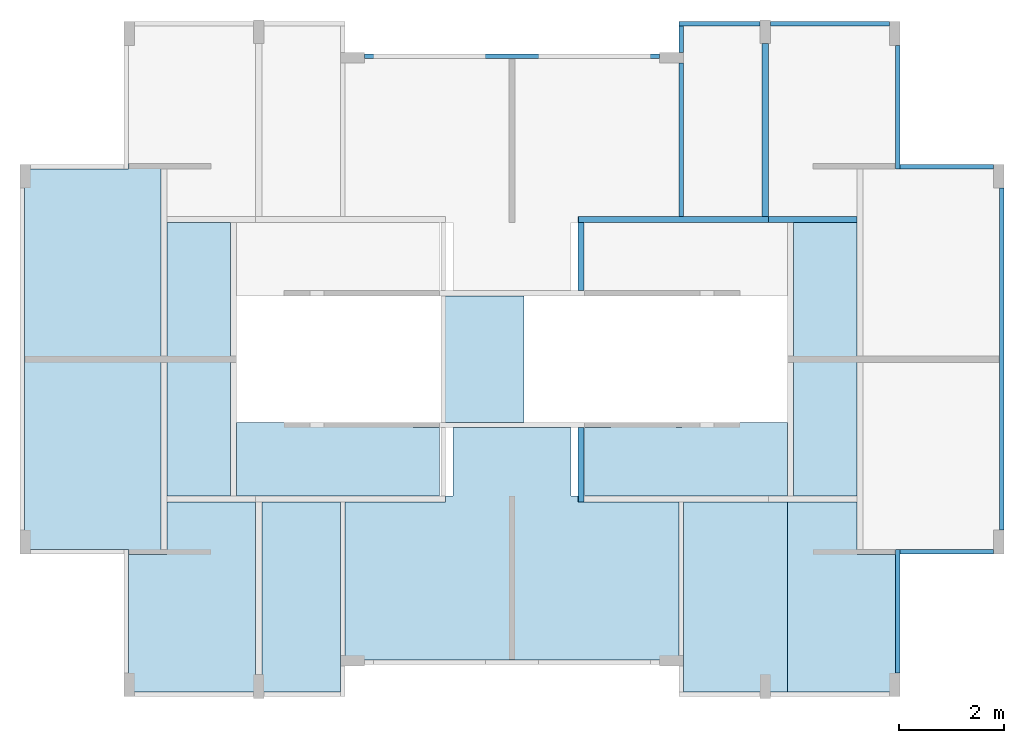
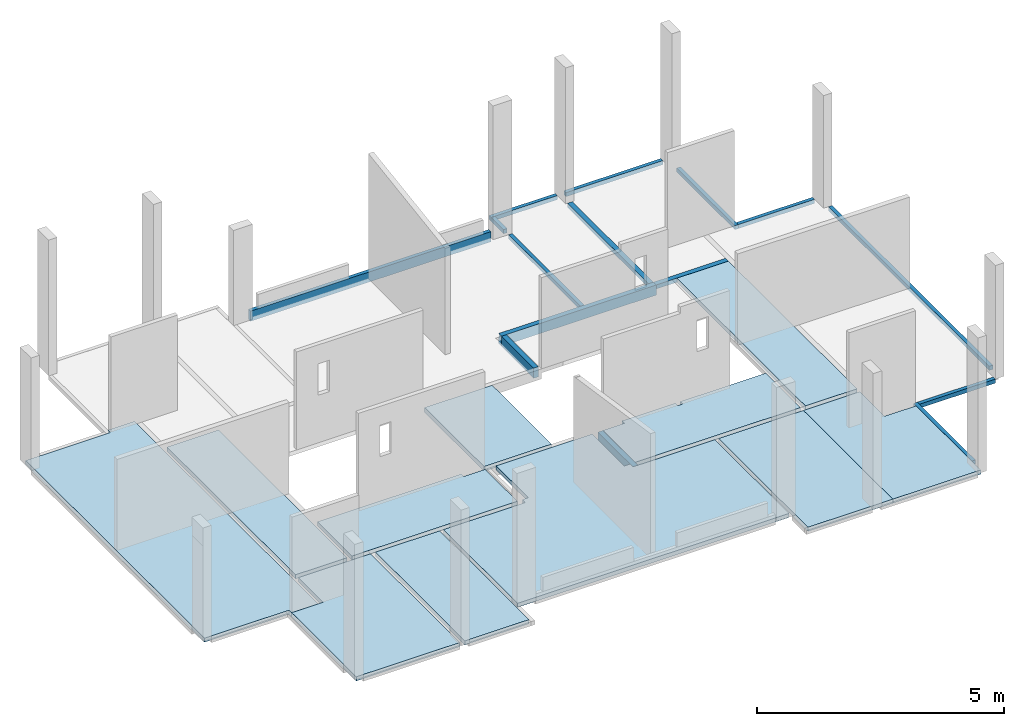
# One storey, part 3 of 5: 13 beams, 11 slabs.
"""IFC4 building model written with IfcOpenShell, lengths in metres."""

from ifc_helpers import new_model, entity, si_unit, converted_unit, derived_unit, direction, frame, frame_2d, origin, place, context, subcontext, project, spatial, polyline, indexed_curve, rectangle, outline, extrude, polygons, source, transform, mapped, material, type_object, type_shapes, element, save


model = new_model("IFC4")

# Units and contexts
model_context = context("Model", 3, precision=1e-05, world=origin(), true_north=direction((6.123031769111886e-17, 1.0)))
body_context = subcontext(model_context, "Body", "Model", "MODEL_VIEW")
ifc_project = project(units=[si_unit("LENGTHUNIT", "METRE"), si_unit("AREAUNIT", "SQUARE_METRE"), si_unit("VOLUMEUNIT", "CUBIC_METRE"), converted_unit("PLANEANGLEUNIT", "DEGREE", entity("IfcRatioMeasure", 0.017453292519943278), si_unit("PLANEANGLEUNIT", "RADIAN"), dimensions=[0, 0, 0, 0, 0, 0, 0]), si_unit("MASSUNIT", "GRAM", prefix="KILO"), derived_unit("MASSDENSITYUNIT", [(si_unit("MASSUNIT", "GRAM", prefix="KILO"), 1), (si_unit("LENGTHUNIT", "METRE"), -3)]), derived_unit("IONCONCENTRATIONUNIT", [(si_unit("MASSUNIT", "GRAM", prefix="KILO"), 1), (si_unit("LENGTHUNIT", "METRE"), -3)]), derived_unit("MOMENTOFINERTIAUNIT", [(si_unit("LENGTHUNIT", "METRE"), 4)]), si_unit("TIMEUNIT", "SECOND"), si_unit("FREQUENCYUNIT", "HERTZ"), si_unit("THERMODYNAMICTEMPERATUREUNIT", "DEGREE_CELSIUS"), derived_unit("THERMALTRANSMITTANCEUNIT", [(si_unit("MASSUNIT", "GRAM", prefix="KILO"), 1), (si_unit("THERMODYNAMICTEMPERATUREUNIT", "KELVIN"), -1), (si_unit("TIMEUNIT", "SECOND"), -3)]), derived_unit("THERMALCONDUCTANCEUNIT", [(si_unit("MASSUNIT", "GRAM", prefix="KILO"), 1), (si_unit("THERMODYNAMICTEMPERATUREUNIT", "KELVIN"), -1), (si_unit("TIMEUNIT", "SECOND"), -3), (si_unit("LENGTHUNIT", "METRE"), 1)]), derived_unit("VOLUMETRICFLOWRATEUNIT", [(si_unit("LENGTHUNIT", "METRE"), 3), (si_unit("TIMEUNIT", "SECOND"), -1)]), derived_unit("MASSFLOWRATEUNIT", [(si_unit("MASSUNIT", "GRAM", prefix="KILO"), 1), (si_unit("TIMEUNIT", "SECOND"), -1)]), derived_unit("ROTATIONALFREQUENCYUNIT", [(si_unit("TIMEUNIT", "SECOND"), -1)]), si_unit("ELECTRICCURRENTUNIT", "AMPERE"), si_unit("ELECTRICVOLTAGEUNIT", "VOLT"), si_unit("POWERUNIT", "WATT"), si_unit("FORCEUNIT", "NEWTON", prefix="KILO"), si_unit("ILLUMINANCEUNIT", "LUX"), si_unit("LUMINOUSFLUXUNIT", "LUMEN"), si_unit("LUMINOUSINTENSITYUNIT", "CANDELA"), derived_unit("USERDEFINED", [(si_unit("MASSUNIT", "GRAM", prefix="KILO"), -1), (si_unit("LENGTHUNIT", "METRE"), -2), (si_unit("TIMEUNIT", "SECOND"), 3), (si_unit("LUMINOUSFLUXUNIT", "LUMEN"), 1)]), derived_unit("USERDEFINED", [(si_unit("MASSUNIT", "GRAM", prefix="KILO"), 1), (si_unit("TIMEUNIT", "SECOND"), -3), (si_unit("LENGTHUNIT", "METRE"), 3), (si_unit("ELECTRICCURRENTUNIT", "AMPERE"), -2)]), derived_unit("SOUNDPOWERUNIT", [(si_unit("MASSUNIT", "GRAM", prefix="KILO"), 1), (si_unit("TIMEUNIT", "SECOND"), -3), (si_unit("LENGTHUNIT", "METRE"), 2)]), derived_unit("SOUNDPRESSUREUNIT", [(si_unit("MASSUNIT", "GRAM", prefix="KILO"), 1), (si_unit("LENGTHUNIT", "METRE"), -1), (si_unit("TIMEUNIT", "SECOND"), -2)]), derived_unit("LINEARVELOCITYUNIT", [(si_unit("LENGTHUNIT", "METRE"), 1), (si_unit("TIMEUNIT", "SECOND"), -1)]), si_unit("PRESSUREUNIT", "PASCAL"), derived_unit("USERDEFINED", [(si_unit("MASSUNIT", "GRAM", prefix="KILO"), 1), (si_unit("LENGTHUNIT", "METRE"), -2), (si_unit("TIMEUNIT", "SECOND"), -2)]), derived_unit("LINEARFORCEUNIT", [(si_unit("MASSUNIT", "GRAM", prefix="KILO"), 1), (si_unit("TIMEUNIT", "SECOND"), -2)]), derived_unit("PLANARFORCEUNIT", [(si_unit("MASSUNIT", "GRAM", prefix="KILO"), 1), (si_unit("LENGTHUNIT", "METRE"), -1), (si_unit("TIMEUNIT", "SECOND"), -2)]), derived_unit("SPECIFICHEATCAPACITYUNIT", [(si_unit("THERMODYNAMICTEMPERATUREUNIT", "KELVIN"), -1), (si_unit("LENGTHUNIT", "METRE"), 2), (si_unit("TIMEUNIT", "SECOND"), -2)]), derived_unit("HEATINGVALUEUNIT", [(si_unit("LENGTHUNIT", "METRE"), 2), (si_unit("TIMEUNIT", "SECOND"), -2)]), derived_unit("VAPORPERMEABILITYUNIT", [(si_unit("LENGTHUNIT", "METRE"), -1), (si_unit("TIMEUNIT", "SECOND"), 1)]), derived_unit("DYNAMICVISCOSITYUNIT", [(si_unit("MASSUNIT", "GRAM", prefix="KILO"), 1), (si_unit("TIMEUNIT", "SECOND"), -1), (si_unit("LENGTHUNIT", "METRE"), -1)]), derived_unit("THERMALEXPANSIONCOEFFICIENTUNIT", [(si_unit("THERMODYNAMICTEMPERATUREUNIT", "KELVIN"), -1)]), derived_unit("MODULUSOFELASTICITYUNIT", [(si_unit("MASSUNIT", "GRAM", prefix="KILO"), 1), (si_unit("LENGTHUNIT", "METRE"), -1), (si_unit("TIMEUNIT", "SECOND"), -2)]), derived_unit("ISOTHERMALMOISTURECAPACITYUNIT", [(si_unit("LENGTHUNIT", "METRE"), 3), (si_unit("MASSUNIT", "GRAM", prefix="KILO"), -1)]), derived_unit("MOISTUREDIFFUSIVITYUNIT", [(si_unit("TIMEUNIT", "SECOND"), -1), (si_unit("LENGTHUNIT", "METRE"), 2)])], contexts=[model_context])

# Site, building, storey
site_placement = place(None, origin())
site = spatial("IfcSite", under=ifc_project, at=site_placement, Name="Default", CompositionType="ELEMENT")
building_placement = place(site_placement, origin())
building = spatial("IfcBuilding", under=site, at=building_placement, Name="Las nubes", CompositionType="ELEMENT")
storey_placement = place(building_placement, frame((0.0, 0.0, 11.750000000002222)))
storey = spatial("IfcBuildingStorey", under=building, at=storey_placement, Name="PISO 6", CompositionType="ELEMENT", Elevation=11.750000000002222)

# Beams
ifc_material_1 = material(Name="Concrete - Cast-in-Place Concrete - 35 MPa", Category="Materials")
beam_type_1 = type_object("IfcBeamType", Name="M_Concrete-Rectangular Beam:(0.085x0.10)", PredefinedType="BEAM", material=ifc_material_1)
shared_shape_1 = source(origin(), body_context, "Body", "SweptSolid", [
    extrude(outline(indexed_curve([(-0.042500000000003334, -0.050000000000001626), (0.042499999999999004, -0.050000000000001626), (0.042499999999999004, 0.04999999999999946), (-0.042500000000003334, 0.04999999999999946), (-0.042500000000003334, -0.050000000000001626)], self_intersect=False)), frame((16.655000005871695, -12.390000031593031, 11.700000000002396), z_axis=(0.0, 1.0, 0.0), x_axis=(-1.0, 0.0, 0.0)), (0.0, 0.0, 1.0), 2.3500028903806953),
])
type_shapes(beam_type_1, [shared_shape_1])
beam_1_placement = place(storey_placement, frame((0.0, 0.0, -11.750000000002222)))
element("IfcBeam", 1, at=beam_1_placement, inside=storey, type_object=beam_type_1, material=ifc_material_1, Name="M_Concrete-Rectangular Beam:(0.085x0.10)", ObjectType="M_Concrete-Rectangular Beam:(0.085x0.10)", PredefinedType="BEAM", context=body_context, shape_type="MappedRepresentation", body=[
    mapped(shared_shape_1, transform((0.0, 0.0, 0.0), scale=1.0)),
])
ifc_material_2 = material(Name="Concrete, Cast In Situ", Category="Materials")
beam_type_2 = type_object("IfcBeamType", Name="M_Concrete-Rectangular Beam:(0.085x0.10)", PredefinedType="BEAM", material=ifc_material_2)
shared_shape_2 = source(origin(), body_context, "Body", "SweptSolid", [
    extrude(outline(indexed_curve([(-0.05000000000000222, -0.04249999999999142), (0.04999999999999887, -0.042500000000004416), (0.05000000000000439, 0.04249999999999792), (-0.04999999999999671, 0.042500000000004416), (-0.05000000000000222, -0.04249999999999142)], self_intersect=False)), frame((16.697500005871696, -10.082497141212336, 11.700000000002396), z_axis=(1.0, 0.0, 0.0), x_axis=(0.0, 0.0, -1.0)), (0.0, 0.0, 1.0), 1.7749999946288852),
])
type_shapes(beam_type_2, [shared_shape_2])
beam_2_placement = place(storey_placement, frame((0.0, 0.0, -11.750000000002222)))
element("IfcBeam", 2, at=beam_2_placement, inside=storey, type_object=beam_type_2, material=ifc_material_2, Name="M_Concrete-Rectangular Beam:(0.085x0.10)", ObjectType="M_Concrete-Rectangular Beam:(0.085x0.10)", PredefinedType="BEAM", context=body_context, shape_type="MappedRepresentation", body=[
    mapped(shared_shape_2, transform((0.0, 0.0, 0.0), scale=1.0)),
])
beam_type_3 = type_object("IfcBeamType", Name="M_Concrete-Rectangular Beam:(0.085x0.10)", PredefinedType="BEAM", material=ifc_material_1)
shared_shape_3 = source(origin(), body_context, "Body", "SweptSolid", [
    extrude(outline(indexed_curve([(-0.042499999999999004, -0.050000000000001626), (0.042500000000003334, -0.050000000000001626), (0.042500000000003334, 0.04999999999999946), (-0.042499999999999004, 0.04999999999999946), (-0.042499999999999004, -0.050000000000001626)], self_intersect=False)), frame((18.630000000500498, -9.675000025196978, 11.700000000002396), z_axis=(0.0, 1.0, 0.0), x_axis=(-1.0, 0.0, 0.0)), (0.0, 0.0, 1.0), 6.499999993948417),
])
type_shapes(beam_type_3, [shared_shape_3])
beam_3_placement = place(storey_placement, frame((0.0, 0.0, -11.750000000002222)))
element("IfcBeam", 3, at=beam_3_placement, inside=storey, type_object=beam_type_3, material=ifc_material_1, Name="M_Concrete-Rectangular Beam:(0.085x0.10)", ObjectType="M_Concrete-Rectangular Beam:(0.085x0.10)", PredefinedType="BEAM", context=body_context, shape_type="MappedRepresentation", body=[
    mapped(shared_shape_3, transform((0.0, 0.0, 0.0), scale=1.0)),
])
beam_type_4 = type_object("IfcBeamType", Name="M_Concrete-Rectangular Beam:(0.085x0.10)", PredefinedType="BEAM", material=ifc_material_2)
shared_shape_4 = source(origin(), body_context, "Body", "SweptSolid", [
    extrude(outline(indexed_curve([(-0.042500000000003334, -0.050000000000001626), (0.042499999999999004, -0.050000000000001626), (0.042499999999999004, 0.04999999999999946), (-0.042500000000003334, 0.04999999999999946), (-0.042500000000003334, -0.050000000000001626)], self_intersect=False)), frame((16.65500000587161, -2.8099983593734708, 11.700000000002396), z_axis=(0.0, 1.0, 0.0), x_axis=(-1.0, 0.0, 0.0)), (0.0, 0.0, 1.0), 2.34999833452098),
])
type_shapes(beam_type_4, [shared_shape_4])
beam_4_placement = place(storey_placement, frame((0.0, 0.0, -11.750000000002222)))
element("IfcBeam", 4, at=beam_4_placement, inside=storey, type_object=beam_type_4, material=ifc_material_2, Name="M_Concrete-Rectangular Beam:(0.085x0.10)", ObjectType="M_Concrete-Rectangular Beam:(0.085x0.10)", PredefinedType="BEAM", context=body_context, shape_type="MappedRepresentation", body=[
    mapped(shared_shape_4, transform((0.0, 0.0, 0.0), scale=1.0)),
])
beam_type_5 = type_object("IfcBeamType", Name="M_Concrete-Rectangular Beam:(0.115x0.25)", PredefinedType="BEAM", material=ifc_material_2)
shared_shape_5 = source(origin(), body_context, "Body", "Tessellation", [
    polygons([(0.11500000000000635, 1.4150000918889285, 0.25000000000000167), (2.1657342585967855e-15, 1.4150000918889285, 0.25000000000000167), (4.331468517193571e-15, 0.11500012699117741, 0.25000000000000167), (0.005000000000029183, 0.11500012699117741, 0.24999999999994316), (0.005000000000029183, 0.0, 0.25000000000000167), (0.11500000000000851, 0.0, 0.25000000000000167), (0.11500000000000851, 0.1150000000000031, 0.25000000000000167), (2.1657342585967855e-15, 1.4150000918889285, 0.0), (4.331468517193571e-15, 0.0, 0.0), (4.331468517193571e-15, 0.0, 0.1499999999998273), (4.331468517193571e-15, 0.11500012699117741, 0.1499999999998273), (0.11500000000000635, 1.4150000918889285, 0.0), (0.11500000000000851, 0.11500000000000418, 0.0), (0.11500000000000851, 0.0, 0.0), (0.11500000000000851, 0.0, 0.1499999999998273), (0.005000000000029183, 0.0, 0.1499999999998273), (0.005000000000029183, 0.11500012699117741, 0.1499999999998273)], [[[1, 2, 3, 4, 5, 6, 7]], [[2, 8, 9, 10, 11, 3]], [[8, 12, 13, 14, 9]], [[12, 1, 7, 6, 15, 14, 13]], [[8, 2, 1, 12]], [[16, 17, 11, 10]], [[17, 16, 5, 4]], [[17, 4, 3, 11]], [[9, 14, 15, 6, 5, 16, 10]]], closed=True),
])
type_shapes(beam_type_5, [shared_shape_5])
beam_5_placement = place(storey_placement, frame((10.577499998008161, -9.140000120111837, -0.2499999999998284)))
element("IfcBeam", 5, at=beam_5_placement, inside=storey, type_object=beam_type_5, material=ifc_material_2, Name="M_Concrete-Rectangular Beam:(0.115x0.25)", ObjectType="M_Concrete-Rectangular Beam:(0.115x0.25)", PredefinedType="BEAM", context=body_context, shape_type="MappedRepresentation", body=[
    mapped(shared_shape_5, transform((0.0, 0.0, 0.0), scale=1.0)),
])
beam_type_6 = type_object("IfcBeamType", Name="M_Concrete-Rectangular Beam:(0.115x0.25)", PredefinedType="BEAM", material=ifc_material_2)
shared_shape_6 = source(origin(), body_context, "Body", "SweptSolid", [
    extrude(outline(indexed_curve([(-0.14499999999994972, -1.120500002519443), (0.004999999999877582, -1.120500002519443), (0.004999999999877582, -1.1155000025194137), (0.10500000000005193, -1.1155000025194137), (0.10500000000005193, -1.0055000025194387), (0.10500000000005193, -1.0005000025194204), (0.10500000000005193, 2.4945000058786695), (0.004999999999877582, 2.4945000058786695), (-0.14499999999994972, 2.4945000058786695), (-0.14499999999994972, -1.0055000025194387), (-0.14499999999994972, -1.120500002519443)], self_intersect=False)), frame((11.698000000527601, -3.824999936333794, 11.645000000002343), z_axis=(0.0, 1.0, 0.0), x_axis=(0.0, 0.0, 1.0)), (0.0, 0.0, 1.0), 0.1150000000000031),
])
type_shapes(beam_type_6, [shared_shape_6])
beam_6_placement = place(storey_placement, frame((0.0, 0.0, -11.750000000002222)))
element("IfcBeam", 6, at=beam_6_placement, inside=storey, type_object=beam_type_6, material=ifc_material_2, Name="M_Concrete-Rectangular Beam:(0.115x0.25)", ObjectType="M_Concrete-Rectangular Beam:(0.115x0.25)", PredefinedType="BEAM", context=body_context, shape_type="MappedRepresentation", body=[
    mapped(shared_shape_6, transform((0.0, 0.0, 0.0), scale=1.0)),
])
beam_type_7 = type_object("IfcBeamType", Name="M_Concrete-Rectangular Beam:(0.115x0.25)", PredefinedType="BEAM", material=ifc_material_2)
shared_shape_7 = source(origin(), body_context, "Body", "SweptSolid", [
    extrude(outline(indexed_curve([(-0.05750000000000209, -0.12500000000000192), (0.05750000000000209, -0.12500000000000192), (0.05750000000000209, 0.12499999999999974), (-0.05750000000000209, 0.12499999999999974), (-0.05750000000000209, -0.12500000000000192)], self_intersect=False)), frame((10.634999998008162, -5.125000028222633, 11.625000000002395), z_axis=(0.0, 1.0, 0.0), x_axis=(-1.0, 0.0, 0.0)), (0.0, 0.0, 1.0), 1.3000000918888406),
])
type_shapes(beam_type_7, [shared_shape_7])
beam_7_placement = place(storey_placement, frame((0.0, 0.0, -11.750000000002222)))
element("IfcBeam", 7, at=beam_7_placement, inside=storey, type_object=beam_type_7, material=ifc_material_2, Name="M_Concrete-Rectangular Beam:(0.115x0.25)", ObjectType="M_Concrete-Rectangular Beam:(0.115x0.25)", PredefinedType="BEAM", context=body_context, shape_type="MappedRepresentation", body=[
    mapped(shared_shape_7, transform((0.0, 0.0, 0.0), scale=1.0)),
])
beam_type_8 = type_object("IfcBeamType", Name="M_Concrete-Rectangular Beam:(0.085x0.25)", PredefinedType="BEAM", material=ifc_material_2)
shared_shape_8 = source(origin(), body_context, "Body", "SweptSolid", [
    extrude(outline(indexed_curve([(-0.12500000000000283, -0.042499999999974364), (0.12499999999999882, -0.04250000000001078), (0.125000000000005, 0.04249999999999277), (-0.12499999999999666, 0.04250000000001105), (-0.12500000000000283, -0.042499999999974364)], self_intersect=False)), frame((6.517499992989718, -0.6675000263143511, 11.775000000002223), z_axis=(1.0, 0.0, 0.0), x_axis=(0.0, 0.0, -1.0)), (0.0, 0.0, 1.0), 5.610000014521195),
])
type_shapes(beam_type_8, [shared_shape_8])
beam_8_placement = place(storey_placement, frame((0.0, 0.0, -11.750000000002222)))
element("IfcBeam", 8, at=beam_8_placement, inside=storey, type_object=beam_type_8, material=ifc_material_2, Name="M_Concrete-Rectangular Beam:(0.085x0.25)", ObjectType="M_Concrete-Rectangular Beam:(0.085x0.25)", PredefinedType="BEAM", context=body_context, shape_type="MappedRepresentation", body=[
    mapped(shared_shape_8, transform((0.0, 0.0, 0.0), scale=1.0)),
])
beam_type_9 = type_object("IfcBeamType", Name="M_Concrete-Rectangular Beam:(0.115x0.10)", PredefinedType="BEAM", material=ifc_material_2)
shared_shape_9 = source(origin(), body_context, "Body", "SweptSolid", [
    extrude(outline(indexed_curve([(-0.05000000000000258, -0.057499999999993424), (0.04999999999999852, -0.057500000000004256), (0.05000000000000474, 0.057499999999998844), (-0.049999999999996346, 0.057500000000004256), (-0.05000000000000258, -0.057499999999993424)], self_intersect=False)), frame((14.192500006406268, -3.7675000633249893, 11.700000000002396), z_axis=(1.0, 0.0, 0.0), x_axis=(0.0, 0.0, -1.0)), (0.0, 0.0, 1.0), 1.6849989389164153),
])
type_shapes(beam_type_9, [shared_shape_9])
beam_9_placement = place(storey_placement, frame((0.0, 0.0, -11.750000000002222)))
element("IfcBeam", 9, at=beam_9_placement, inside=storey, type_object=beam_type_9, material=ifc_material_2, Name="M_Concrete-Rectangular Beam:(0.115x0.10)", ObjectType="M_Concrete-Rectangular Beam:(0.115x0.10)", PredefinedType="BEAM", context=body_context, shape_type="MappedRepresentation", body=[
    mapped(shared_shape_9, transform((0.0, 0.0, 0.0), scale=1.0)),
])
beam_type_10 = type_object("IfcBeamType", Name="M_Concrete-Rectangular Beam:(0.115x0.10)", PredefinedType="BEAM", material=ifc_material_2)
shared_shape_10 = source(origin(), body_context, "Body", "SweptSolid", [
    extrude(outline(indexed_curve([(-0.057499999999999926, -0.04999999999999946), (0.05750000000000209, -0.04999999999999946), (0.057500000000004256, 0.050000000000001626), (-0.05750000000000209, 0.050000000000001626), (-0.057499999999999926, -0.04999999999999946)], self_intersect=False)), frame((14.135000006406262, -0.4300000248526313, 11.700000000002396), z_axis=(0.0, -1.0, 0.0), x_axis=(-1.0, 0.0, 0.0)), (0.0, 0.0, 1.0), 3.2799999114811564),
])
type_shapes(beam_type_10, [shared_shape_10])
beam_10_placement = place(storey_placement, frame((0.0, 0.0, -11.750000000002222)))
element("IfcBeam", 10, at=beam_10_placement, inside=storey, type_object=beam_type_10, material=ifc_material_2, Name="M_Concrete-Rectangular Beam:(0.115x0.10)", ObjectType="M_Concrete-Rectangular Beam:(0.115x0.10)", PredefinedType="BEAM", context=body_context, shape_type="MappedRepresentation", body=[
    mapped(shared_shape_10, transform((0.0, 0.0, 0.0), scale=1.0)),
])
beam_type_11 = type_object("IfcBeamType", Name="M_Concrete-Rectangular Beam:(0.085x0.10)", PredefinedType="BEAM", material=ifc_material_2)
shared_shape_11 = source(origin(), body_context, "Body", "SweptSolid", [
    extrude(outline(indexed_curve([(-0.050000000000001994, -0.04249999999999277), (0.0499999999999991, -0.04250000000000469), (0.05000000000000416, 0.04249999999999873), (-0.049999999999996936, 0.04250000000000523), (-0.050000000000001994, -0.04249999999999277)], self_intersect=False)), frame((18.472500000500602, -2.7674983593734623, 11.700000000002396), z_axis=(-1.0, 0.0, 0.0), x_axis=(0.0, 0.0, -1.0)), (0.0, 0.0, 1.0), 1.7749999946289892),
])
type_shapes(beam_type_11, [shared_shape_11])
beam_11_placement = place(storey_placement, frame((0.0, 0.0, -11.750000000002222)))
element("IfcBeam", 11, at=beam_11_placement, inside=storey, type_object=beam_type_11, material=ifc_material_2, Name="M_Concrete-Rectangular Beam:(0.085x0.10)", ObjectType="M_Concrete-Rectangular Beam:(0.085x0.10)", PredefinedType="BEAM", context=body_context, shape_type="MappedRepresentation", body=[
    mapped(shared_shape_11, transform((0.0, 0.0, 0.0), scale=1.0)),
])
beam_type_12 = type_object("IfcBeamType", Name="M_Concrete-Rectangular Beam:(0.085x0.10)", PredefinedType="BEAM", material=ifc_material_2)
shared_shape_12 = source(origin(), body_context, "Body", "SweptSolid", [
    extrude(outline(indexed_curve([(-0.05000000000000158, -0.0424999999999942), (0.04999999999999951, -0.04250000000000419), (0.05000000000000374, 0.0424999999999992), (-0.049999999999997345, 0.04250000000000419), (-0.05000000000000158, -0.0424999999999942)], self_intersect=False)), frame((14.035000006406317, -0.05250003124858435, 11.700000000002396), z_axis=(-1.0, 0.0, 0.0), x_axis=(0.0, 0.0, -1.0)), (0.0, 0.0, 1.0), 1.5424999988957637),
    extrude(outline(indexed_curve([(-0.05000000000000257, -0.042499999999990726), (0.049999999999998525, -0.042500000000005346), (0.050000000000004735, 0.04249999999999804), (-0.04999999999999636, 0.042500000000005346), (-0.05000000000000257, -0.042499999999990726)], self_intersect=False)), frame((16.497500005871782, -0.05250003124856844, 11.700000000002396), z_axis=(-1.0, 0.0, 0.0), x_axis=(0.0, 0.0, -1.0)), (0.0, 0.0, 1.0), 2.2624999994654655),
])
type_shapes(beam_type_12, [shared_shape_12])
beam_12_placement = place(storey_placement, frame((0.0, 0.0, -11.750000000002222)))
element("IfcBeam", 12, at=beam_12_placement, inside=storey, type_object=beam_type_12, material=ifc_material_2, Name="M_Concrete-Rectangular Beam:(0.085x0.10)", ObjectType="M_Concrete-Rectangular Beam:(0.085x0.10)", PredefinedType="BEAM", context=body_context, shape_type="MappedRepresentation", body=[
    mapped(shared_shape_12, transform((0.0, 0.0, 0.0), scale=1.0)),
])
beam_type_13 = type_object("IfcBeamType", Name="M_Concrete-Rectangular Beam:(0.085x0.10)", PredefinedType="BEAM", material=ifc_material_2)
shared_shape_13 = source(origin(), body_context, "Body", "SweptSolid", [
    extrude(outline(indexed_curve([(-0.04250000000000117, -0.04999999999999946), (0.04250000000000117, -0.04999999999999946), (0.04250000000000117, 0.050000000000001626), (-0.04250000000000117, 0.050000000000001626), (-0.04250000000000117, -0.04999999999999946)], self_intersect=False)), frame((12.535000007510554, -0.7950000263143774, 11.700000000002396), z_axis=(0.0, -1.0, 0.0), x_axis=(-1.0, 0.0, 0.0)), (0.0, 0.0, 1.0), 2.914999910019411),
    extrude(outline(indexed_curve([(-0.04250000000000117, -0.04999999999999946), (0.04250000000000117, -0.04999999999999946), (0.04250000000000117, 0.050000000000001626), (-0.04250000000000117, 0.050000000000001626), (-0.04250000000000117, -0.04999999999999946)], self_intersect=False)), frame((12.535000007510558, -0.09500002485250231, 11.700000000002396), z_axis=(0.0, -1.0, 0.0), x_axis=(-1.0, 0.0, 0.0)), (0.0, 0.0, 1.0), 0.5000000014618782),
])
type_shapes(beam_type_13, [shared_shape_13])
beam_13_placement = place(storey_placement, frame((0.0, 0.0, -11.750000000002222)))
element("IfcBeam", 13, at=beam_13_placement, inside=storey, type_object=beam_type_13, material=ifc_material_2, Name="M_Concrete-Rectangular Beam:(0.085x0.10)", ObjectType="M_Concrete-Rectangular Beam:(0.085x0.10)", PredefinedType="BEAM", context=body_context, shape_type="MappedRepresentation", body=[
    mapped(shared_shape_13, transform((0.0, 0.0, 0.0), scale=1.0)),
])

# Slabs
ifc_material_3 = material(Name="Concrete - Cast-in-Place Concrete - 28 MPa SLAB", Category="Materials")
slab_type_1 = type_object("IfcSlabType", Name="Floor:PLACA ESTRUCTURAL 0.10", PredefinedType="FLOOR", material=ifc_material_3)
slab_1_placement = place(storey_placement, origin())
element("IfcSlab", 14, at=slab_1_placement, inside=storey, type_object=slab_type_1, material=ifc_material_3, Name="Floor:PLACA ESTRUCTURAL 0.10", ObjectType="Floor:PLACA ESTRUCTURAL 0.10", PredefinedType="FLOOR", context=body_context, shape_type="SweptSolid", body=[
    extrude(outline(indexed_curve([(-3.6149999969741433, -1.636250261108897), (3.614999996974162, -1.636250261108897), (3.614999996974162, 0.33874973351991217), (3.7150000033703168, 0.3387497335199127), (3.7150000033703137, 0.9587507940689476), (-3.7150000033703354, 0.9587507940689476), (-3.715000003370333, 0.33874973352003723), (-3.6149999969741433, 0.3387497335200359), (-3.6149999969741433, -1.636250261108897)], self_intersect=False)), frame((1.693750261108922, -6.425000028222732, 0.0), z_axis=(0.0, 0.0, -1.0), x_axis=(0.0, 1.0, 0.0)), (0.0, 0.0, 1.0), 0.10000000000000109),
])
slab_2_placement = place(storey_placement, origin())
element("IfcSlab", 15, at=slab_2_placement, inside=storey, type_object=slab_type_1, material=ifc_material_3, Name="Floor:PLACA ESTRUCTURAL 0.10", ObjectType="Floor:PLACA ESTRUCTURAL 0.10", PredefinedType="FLOOR", context=body_context, shape_type="SweptSolid", body=[
    extrude(outline(indexed_curve([(-2.0766666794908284, -1.0516670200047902), (0.5383333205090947, -1.0516670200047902), (0.5383333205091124, -0.3166659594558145), (1.5383333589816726, -0.3166659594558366), (1.5383333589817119, 1.368332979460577), (-2.0766666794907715, 1.3683329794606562), (-2.0766666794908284, -1.0516670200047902)], self_intersect=False)), frame((3.0841670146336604, -10.67833335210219, 0.0), z_axis=(0.0, 0.0, -1.0), x_axis=(0.0, 1.0, 0.0)), (0.0, 0.0, 1.0), 0.10000000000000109),
])
slab_3_placement = place(storey_placement, frame((2.767501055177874, -12.755000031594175, -0.10000000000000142)))
element("IfcSlab", 16, at=slab_3_placement, inside=storey, type_object=slab_type_1, material=ifc_material_3, Name="Floor:PLACA ESTRUCTURAL 0.10", ObjectType="Floor:PLACA ESTRUCTURAL 0.10", PredefinedType="FLOOR", context=body_context, shape_type="SweptSolid", body=[
    extrude(rectangle(XDim=1.2049989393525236, YDim=5.19999992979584, at=frame_2d((5.952499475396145, 0.0), x_axis=(1.0, 0.0))), frame((6.554998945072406, 6.330000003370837, 0.10000000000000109), z_axis=(0.0, 0.0, -1.0), x_axis=(-1.0, 0.0, 0.0)), (0.0, 0.0, 1.0), 0.10000000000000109),
])
slab_4_placement = place(storey_placement, frame((2.767501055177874, -12.755000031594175, -0.10000000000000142)))
element("IfcSlab", 17, at=slab_4_placement, inside=storey, type_object=slab_type_1, Name="Floor:PLACA ESTRUCTURAL 0.10:3", ObjectType="Floor:PLACA ESTRUCTURAL 0.10", PredefinedType="FLOOR", context=body_context, shape_type="SweptSolid", body=[
    extrude(outline(polyline([(5.235000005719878, -1.199999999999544), (1.8799999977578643, -1.199999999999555), (1.8799999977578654, -1.2999999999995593), (1.3749999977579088, -1.2999999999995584), (1.3749999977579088, -2.6000000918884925), (5.235000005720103, -2.6000000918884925), (5.235000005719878, -1.199999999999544)])), frame((6.554998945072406, 6.330000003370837, 0.10000000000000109), z_axis=(0.0, 0.0, -1.0), x_axis=(-1.0, 0.0, 0.0)), (0.0, 0.0, 1.0), 0.10000000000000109),
])
slab_5_placement = place(storey_placement, frame((2.767501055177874, -12.755000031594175, -0.10000000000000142)))
element("IfcSlab", 18, at=slab_5_placement, inside=storey, type_object=slab_type_1, Name="Floor:PLACA ESTRUCTURAL 0.10:5", ObjectType="Floor:PLACA ESTRUCTURAL 0.10", PredefinedType="FLOOR", context=body_context, shape_type="SweptSolid", body=[
    extrude(rectangle(XDim=3.6149999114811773, YDim=1.4999999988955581, at=frame_2d((4.005000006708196, -4.522500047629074), x_axis=(0.0, -1.0))), frame((6.554998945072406, 6.330000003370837, 0.10000000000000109), z_axis=(0.0, 0.0, -1.0), x_axis=(-1.0, 0.0, 0.0)), (0.0, 0.0, 1.0), 0.10000000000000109),
])
slab_6_placement = place(storey_placement, frame((2.767501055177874, -12.755000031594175, -0.10000000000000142)))
element("IfcSlab", 19, at=slab_6_placement, inside=storey, type_object=slab_type_1, Name="Floor:PLACA ESTRUCTURAL 0.10:7", ObjectType="Floor:PLACA ESTRUCTURAL 0.10", PredefinedType="FLOOR", context=body_context, shape_type="SweptSolid", body=[
    extrude(outline(polyline([(1.2599999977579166, -2.599999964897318), (1.1200000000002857, -2.599999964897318), (1.1200000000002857, -1.2999999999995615), (-1.1199999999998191, -1.299999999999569), (-1.1199999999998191, -2.59999996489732), (-1.2599999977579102, -2.59999996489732), (-1.2599999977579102, -2.7150000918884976), (-3.1700000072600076, -2.7150000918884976), (-3.170000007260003, -5.715000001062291), (3.1700000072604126, -5.715000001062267), (3.170000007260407, -2.715000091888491), (1.2599999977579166, -2.7150000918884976), (1.2599999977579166, -2.599999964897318)])), frame((6.554998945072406, 6.330000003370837, 0.10000000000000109), z_axis=(0.0, 0.0, -1.0), x_axis=(-1.0, 0.0, 0.0)), (0.0, 0.0, 1.0), 0.10000000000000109),
])
slab_7_placement = place(storey_placement, frame((2.767501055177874, -12.755000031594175, -0.10000000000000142)))
element("IfcSlab", 20, at=slab_7_placement, inside=storey, type_object=slab_type_1, Name="Floor:PLACA ESTRUCTURAL 0.10:8", ObjectType="Floor:PLACA ESTRUCTURAL 0.10", PredefinedType="FLOOR", context=body_context, shape_type="SweptSolid", body=[
    extrude(rectangle(XDim=1.9799999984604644, YDim=3.61499991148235, at=frame_2d((-4.2450000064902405, -4.522500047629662), x_axis=(1.0, 0.0))), frame((6.554998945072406, 6.330000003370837, 0.10000000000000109), z_axis=(0.0, 0.0, -1.0), x_axis=(-1.0, 0.0, 0.0)), (0.0, 0.0, 1.0), 0.10000000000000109),
])
slab_8_placement = place(storey_placement, frame((2.767501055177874, -12.755000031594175, -0.10000000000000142)))
element("IfcSlab", 21, at=slab_8_placement, inside=storey, type_object=slab_type_1, Name="Floor:PLACA ESTRUCTURAL 0.10:10", ObjectType="Floor:PLACA ESTRUCTURAL 0.10", PredefinedType="FLOOR", context=body_context, shape_type="SweptSolid", body=[
    extrude(rectangle(XDim=1.2049989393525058, YDim=5.199999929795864, at=frame_2d((-5.95249947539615, 0.0), x_axis=(1.0, 0.0))), frame((6.554998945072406, 6.330000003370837, 0.10000000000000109), z_axis=(0.0, 0.0, -1.0), x_axis=(-1.0, 0.0, 0.0)), (0.0, 0.0, 1.0), 0.10000000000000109),
])
slab_9_placement = place(storey_placement, frame((2.767501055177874, -12.755000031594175, -0.10000000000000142)))
element("IfcSlab", 22, at=slab_9_placement, inside=storey, type_object=slab_type_1, Name="Floor:PLACA ESTRUCTURAL 0.10:12", ObjectType="Floor:PLACA ESTRUCTURAL 0.10", PredefinedType="FLOOR", context=body_context, shape_type="SweptSolid", body=[
    extrude(outline(polyline([(-5.235000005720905, -2.6000000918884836), (-1.3749999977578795, -2.6000000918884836), (-1.3749999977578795, -1.299999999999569), (-1.8799999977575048, -1.2999999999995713), (-1.8799999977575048, -1.199999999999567), (-3.120000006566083, -1.1999999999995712), (-3.120000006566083, -1.3000000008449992), (-3.2350000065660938, -1.3000000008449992), (-3.2350000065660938, -1.1999999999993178), (-5.2350000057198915, -1.1999999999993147), (-5.235000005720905, -2.6000000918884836)])), frame((6.554998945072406, 6.330000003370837, 0.10000000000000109), z_axis=(0.0, 0.0, -1.0), x_axis=(-1.0, 0.0, 0.0)), (0.0, 0.0, 1.0), 0.10000000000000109),
])
slab_10_placement = place(storey_placement, origin())
element("IfcSlab", 23, at=slab_10_placement, inside=storey, type_object=slab_type_1, material=ifc_material_3, Name="Floor:PLACA ESTRUCTURAL 0.10", ObjectType="Floor:PLACA ESTRUCTURAL 0.10", PredefinedType="FLOOR", context=body_context, shape_type="SweptSolid", body=[
    extrude(outline(indexed_curve([(-2.0766666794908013, -1.368332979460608), (1.538333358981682, -1.368332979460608), (1.5383333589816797, 0.316665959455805), (0.5383333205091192, 0.3166659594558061), (0.5383333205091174, 1.0516670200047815), (-2.0766666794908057, 1.0516670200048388), (-2.0766666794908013, -1.368332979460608)], self_intersect=False)), frame((15.56083298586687, -10.67833335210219, 0.0), z_axis=(0.0, 0.0, -1.0), x_axis=(0.0, 1.0, 0.0)), (0.0, 0.0, 1.0), 0.10000000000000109),
])
slab_type_2 = type_object("IfcSlabType", Name="Floor:PLACA ESTRUCTURAL 0.12", PredefinedType="FLOOR", material=ifc_material_2)
slab_11_placement = place(storey_placement, origin())
element("IfcSlab", 24, at=slab_11_placement, inside=storey, type_object=slab_type_2, material=ifc_material_2, Name="Floor:PLACA ESTRUCTURAL 0.12", ObjectType="Floor:PLACA ESTRUCTURAL 0.12", PredefinedType="FLOOR", context=body_context, shape_type="SweptSolid", body=[
    extrude(outline(indexed_curve([(-1.2000000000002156, -0.7875000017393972), (1.2000000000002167, -0.7875000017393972), (1.2000000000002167, 0.7875000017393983), (-1.2000000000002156, 0.7875000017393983), (-1.2000000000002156, -0.7875000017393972)], self_intersect=False)), frame((8.765000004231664, -6.425000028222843, 0.0), z_axis=(0.0, 0.0, -1.0), x_axis=(0.0, 1.0, 0.0)), (0.0, 0.0, 1.0), 0.12000000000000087),
])

save(model, "model.ifc")
